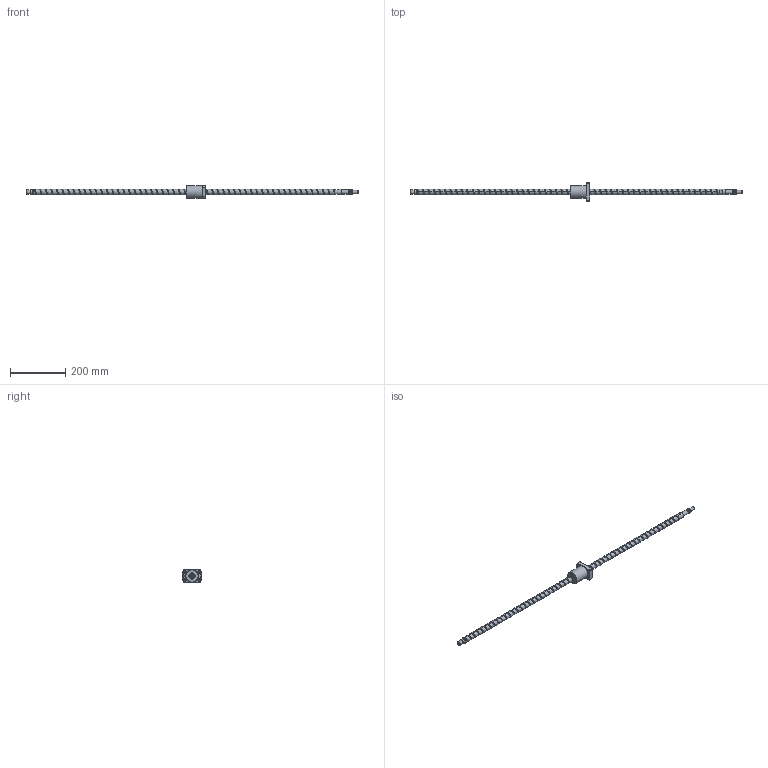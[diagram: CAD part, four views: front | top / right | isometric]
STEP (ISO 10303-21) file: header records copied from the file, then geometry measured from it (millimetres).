
FILE_DESCRIPTION (( 'STEP AP203' ), '1' );
FILE_NAME ('XSVR02020A1DGC5-1199-P1.step', '2024-06-03T06:49:14', ( '' ), ( '' ), 'SwSTEP 2.0', 'SolidWorks 2022', '' );
FILE_SCHEMA (( 'CONFIG_CONTROL_DESIGN' ));
Products named in the file (1): XSVR02020A1DGC5-1199-P1
Bounding box: 1199 x 66 x 46 mm (x, y, z)
Volume: 456080.3 mm3; surface area: 100537.7 mm2
Topology: 2 solids, 2 shells, 211 faces, 583 edges, 384 vertices
Faces by surface type: cylinder 113, plane 40, bspline 29, cone 20, torus 9
Full cylindrical faces by diameter (mm): 4 x1, 5 x15, 6.6 x4, 11 x4, 12 x1, 14.3 x1, 15 x16, 20 x55, 22.1 x1, 46 x1
Entity records: 26610 total; most frequent: CARTESIAN_POINT 23992, ORIENTED_EDGE 576, DIRECTION 407, EDGE_CURVE 288, VERTEX_POINT 206, EDGE_LOOP 184, AXIS2_PLACEMENT_3D 178, FACE_OUTER_BOUND 146
